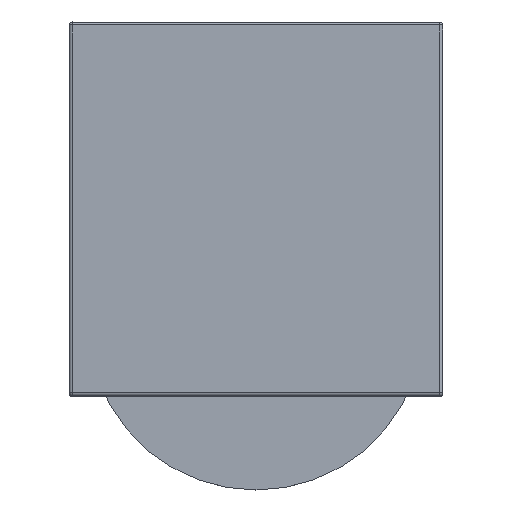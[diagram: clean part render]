
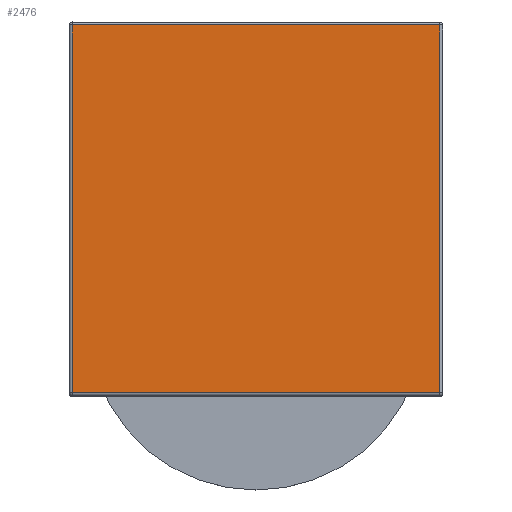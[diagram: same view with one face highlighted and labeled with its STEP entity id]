
A CAD part, top view. The second image highlights one B-rep face of the part: STEP entity #2476.
In plain terms, the highlighted planar face has unit normal (0, 0, 1).
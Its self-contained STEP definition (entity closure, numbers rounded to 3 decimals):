
#13 = ORIENTED_EDGE ( 'NONE', *, *, #219, .T. ) ;
#71 = LINE ( 'NONE', #1132, #1966 ) ;
#98 = VECTOR ( 'NONE', #2469, 1000. ) ;
#153 = DIRECTION ( 'NONE',  ( -1., 0., 0. ) ) ;
#219 = EDGE_CURVE ( 'NONE', #282, #2448, #1102, .T. ) ;
#282 = VERTEX_POINT ( 'NONE', #1740 ) ;
#331 = CARTESIAN_POINT ( 'NONE',  ( -50.214, 85.691, 198.5 ) ) ;
#360 = CARTESIAN_POINT ( 'NONE',  ( -50.214, -13.509, 198.5 ) ) ;
#491 = VECTOR ( 'NONE', #2135, 1000. ) ;
#518 = VECTOR ( 'NONE', #1583, 1000. ) ;
#606 = ORIENTED_EDGE ( 'NONE', *, *, #1587, .T. ) ;
#607 = ORIENTED_EDGE ( 'NONE', *, *, #1671, .T. ) ;
#814 = EDGE_LOOP ( 'NONE', ( #607, #2005, #13, #606 ) ) ;
#1083 = VERTEX_POINT ( 'NONE', #331 ) ;
#1102 = LINE ( 'NONE', #2215, #518 ) ;
#1132 = CARTESIAN_POINT ( 'NONE',  ( -51.014, 85.691, 198.5 ) ) ;
#1258 = LINE ( 'NONE', #2152, #491 ) ;
#1273 = EDGE_CURVE ( 'NONE', #1083, #282, #1999, .T. ) ;
#1282 = FACE_OUTER_BOUND ( 'NONE', #814, .T. ) ;
#1315 = AXIS2_PLACEMENT_3D ( 'NONE', #1414, #2707, #153 ) ;
#1349 = CARTESIAN_POINT ( 'NONE',  ( 48.186, 85.691, 198.5 ) ) ;
#1359 = DIRECTION ( 'NONE',  ( -1., 0., 0. ) ) ;
#1414 = CARTESIAN_POINT ( 'NONE',  ( -1.014, 36.491, 198.5 ) ) ;
#1583 = DIRECTION ( 'NONE',  ( 1., 0., 0. ) ) ;
#1587 = EDGE_CURVE ( 'NONE', #2448, #1924, #1258, .T. ) ;
#1671 = EDGE_CURVE ( 'NONE', #1924, #1083, #71, .T. ) ;
#1740 = CARTESIAN_POINT ( 'NONE',  ( -50.214, -12.709, 198.5 ) ) ;
#1924 = VERTEX_POINT ( 'NONE', #1349 ) ;
#1966 = VECTOR ( 'NONE', #1359, 1000. ) ;
#1999 = LINE ( 'NONE', #360, #98 ) ;
#2005 = ORIENTED_EDGE ( 'NONE', *, *, #1273, .T. ) ;
#2006 = CARTESIAN_POINT ( 'NONE',  ( 48.186, -12.709, 198.5 ) ) ;
#2085 = PLANE ( 'NONE',  #1315 ) ;
#2135 = DIRECTION ( 'NONE',  ( 0., 1., 0. ) ) ;
#2152 = CARTESIAN_POINT ( 'NONE',  ( 48.186, 86.491, 198.5 ) ) ;
#2215 = CARTESIAN_POINT ( 'NONE',  ( 48.986, -12.709, 198.5 ) ) ;
#2448 = VERTEX_POINT ( 'NONE', #2006 ) ;
#2469 = DIRECTION ( 'NONE',  ( 0., -1., 0. ) ) ;
#2476 = ADVANCED_FACE ( 'NONE', ( #1282 ), #2085, .T. ) ;
#2707 = DIRECTION ( 'NONE',  ( 0., 0., 1. ) ) ;
